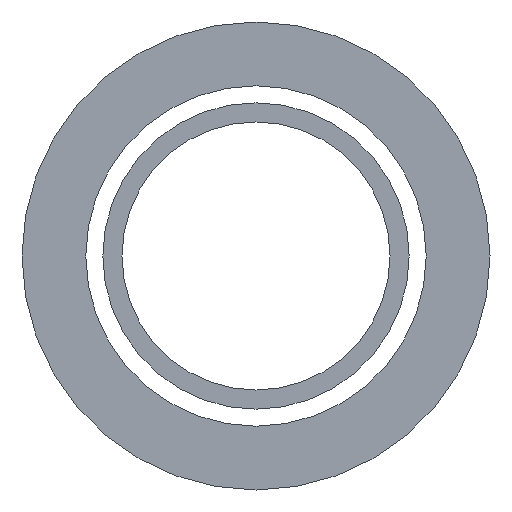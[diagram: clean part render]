
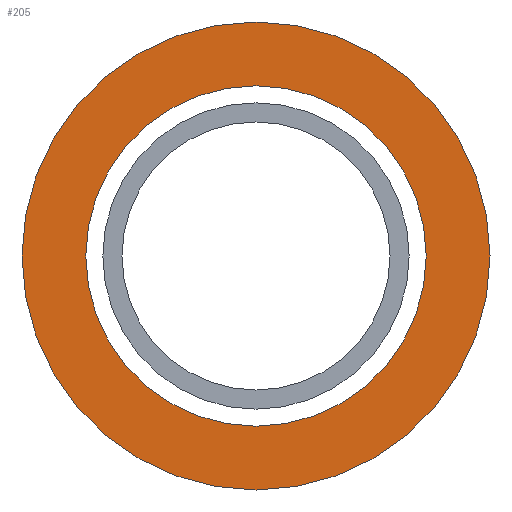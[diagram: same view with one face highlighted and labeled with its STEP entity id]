
A CAD part, left-side view. The second image highlights one B-rep face of the part: STEP entity #205.
In plain terms, the highlighted planar face has unit normal (-1, 0, 0).
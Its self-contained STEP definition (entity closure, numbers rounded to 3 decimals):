
#44 = VERTEX_POINT('',#45);
#45 = CARTESIAN_POINT('',(600.,55.,0.));
#54 = CYLINDRICAL_SURFACE('',#55,55.);
#55 = AXIS2_PLACEMENT_3D('',#56,#57,#58);
#56 = CARTESIAN_POINT('',(600.,0.,0.));
#57 = DIRECTION('',(-1.,-0.,-0.));
#58 = DIRECTION('',(0.,1.,0.));
#101 = EDGE_CURVE('',#44,#44,#102,.T.);
#102 = SURFACE_CURVE('',#103,(#108,#115),.PCURVE_S1.);
#103 = CIRCLE('',#104,55.);
#104 = AXIS2_PLACEMENT_3D('',#105,#106,#107);
#105 = CARTESIAN_POINT('',(600.,0.,0.));
#106 = DIRECTION('',(1.,0.,0.));
#107 = DIRECTION('',(0.,1.,0.));
#108 = PCURVE('',#54,#109);
#109 = DEFINITIONAL_REPRESENTATION('',(#110),#114);
#110 = LINE('',#111,#112);
#111 = CARTESIAN_POINT('',(-0.,0.));
#112 = VECTOR('',#113,1.);
#113 = DIRECTION('',(-1.,0.));
#114 = ( GEOMETRIC_REPRESENTATION_CONTEXT(2) 
PARAMETRIC_REPRESENTATION_CONTEXT() REPRESENTATION_CONTEXT('2D SPACE',''
  ) );
#115 = PCURVE('',#116,#121);
#116 = PLANE('',#117);
#117 = AXIS2_PLACEMENT_3D('',#118,#119,#120);
#118 = CARTESIAN_POINT('',(600.,0.,0.)
  );
#119 = DIRECTION('',(1.,0.,0.));
#120 = DIRECTION('',(-0.,0.,1.));
#121 = DEFINITIONAL_REPRESENTATION('',(#122),#126);
#122 = CIRCLE('',#123,55.);
#123 = AXIS2_PLACEMENT_2D('',#124,#125);
#124 = CARTESIAN_POINT('',(0.,0.));
#125 = DIRECTION('',(0.,-1.));
#126 = ( GEOMETRIC_REPRESENTATION_CONTEXT(2) 
PARAMETRIC_REPRESENTATION_CONTEXT() REPRESENTATION_CONTEXT('2D SPACE',''
  ) );
#132 = VERTEX_POINT('',#133);
#133 = CARTESIAN_POINT('',(600.,40.,0.));
#142 = CYLINDRICAL_SURFACE('',#143,40.);
#143 = AXIS2_PLACEMENT_3D('',#144,#145,#146);
#144 = CARTESIAN_POINT('',(600.,0.,0.));
#145 = DIRECTION('',(-1.,-0.,-0.));
#146 = DIRECTION('',(0.,1.,0.));
#184 = EDGE_CURVE('',#132,#132,#185,.T.);
#185 = SURFACE_CURVE('',#186,(#191,#198),.PCURVE_S1.);
#186 = CIRCLE('',#187,40.);
#187 = AXIS2_PLACEMENT_3D('',#188,#189,#190);
#188 = CARTESIAN_POINT('',(600.,0.,0.));
#189 = DIRECTION('',(1.,0.,0.));
#190 = DIRECTION('',(0.,1.,0.));
#191 = PCURVE('',#142,#192);
#192 = DEFINITIONAL_REPRESENTATION('',(#193),#197);
#193 = LINE('',#194,#195);
#194 = CARTESIAN_POINT('',(-0.,0.));
#195 = VECTOR('',#196,1.);
#196 = DIRECTION('',(-1.,0.));
#197 = ( GEOMETRIC_REPRESENTATION_CONTEXT(2) 
PARAMETRIC_REPRESENTATION_CONTEXT() REPRESENTATION_CONTEXT('2D SPACE',''
  ) );
#198 = PCURVE('',#116,#199);
#199 = DEFINITIONAL_REPRESENTATION('',(#200),#204);
#200 = CIRCLE('',#201,40.);
#201 = AXIS2_PLACEMENT_2D('',#202,#203);
#202 = CARTESIAN_POINT('',(0.,0.));
#203 = DIRECTION('',(0.,-1.));
#204 = ( GEOMETRIC_REPRESENTATION_CONTEXT(2) 
PARAMETRIC_REPRESENTATION_CONTEXT() REPRESENTATION_CONTEXT('2D SPACE',''
  ) );
#205 = ADVANCED_FACE('',(#206,#209),#116,.F.);
#206 = FACE_BOUND('',#207,.F.);
#207 = EDGE_LOOP('',(#208));
#208 = ORIENTED_EDGE('',*,*,#101,.T.);
#209 = FACE_BOUND('',#210,.F.);
#210 = EDGE_LOOP('',(#211));
#211 = ORIENTED_EDGE('',*,*,#184,.F.);
